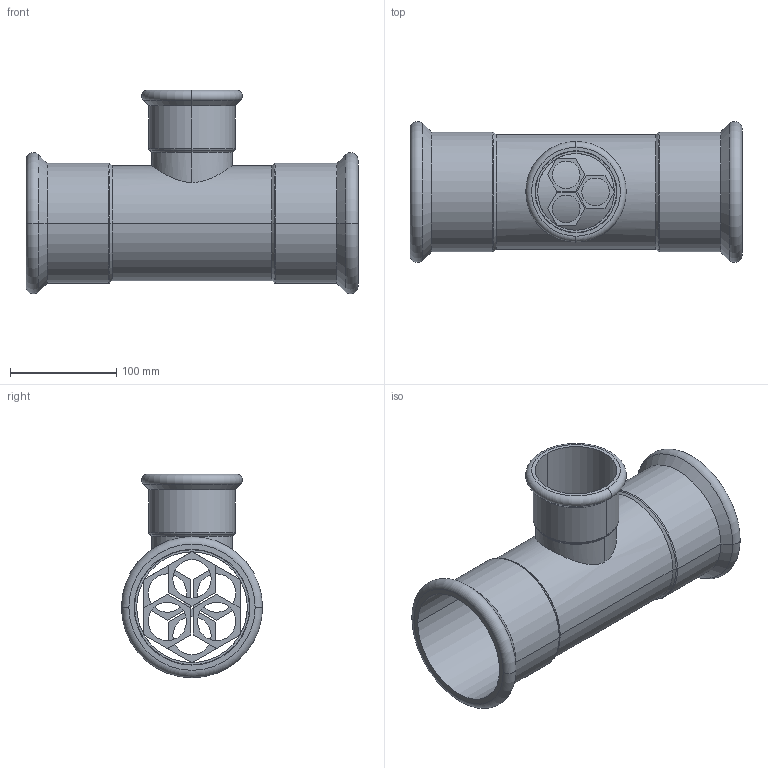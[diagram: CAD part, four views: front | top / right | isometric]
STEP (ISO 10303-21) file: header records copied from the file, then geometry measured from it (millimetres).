
FILE_DESCRIPTION(('OneSpaceDesigner STEP Export'),'2;1');
FILE_NAME('R2715 108x76x108.stp','2010-06-10T 9:44:54',(''),(''),'OneSpace Designer STEP processor for AP214 (Solid Model)','OneSpace Modeling 15.00A 14-Mar-2007 (C) CoCreate Software GmbH','');
FILE_SCHEMA(('AUTOMOTIVE_DESIGN { 1 0 10303 214 1 1 1 1 }'));
Length unit declared in the file: millimetre
Products named in the file (2): R2715_108x76x108
Assembly tree (1 placements, depth 2):
  R2715_108x76x108
    R2715_108x76x108
Bounding box: 312 x 132.58 x 191.29 mm (x, y, z)
Volume: 396261.1 mm3; surface area: 285926.6 mm2
Topology: 1 solids, 1 shells, 168 faces, 423 edges, 273 vertices
Faces by surface type: plane 90, cylinder 54, cone 12, torus 12
Entity records: 5898 total; most frequent: CARTESIAN_POINT 2208, ORIENTED_EDGE 846, DIRECTION 629, EDGE_CURVE 423, VERTEX_POINT 273, VECTOR 263, LINE 263, EDGE_LOOP 204
